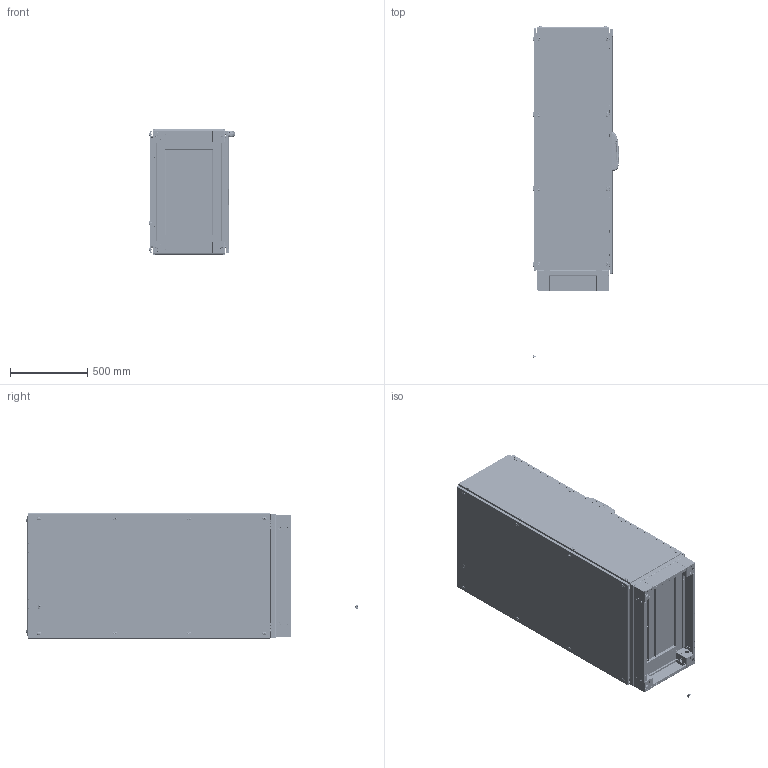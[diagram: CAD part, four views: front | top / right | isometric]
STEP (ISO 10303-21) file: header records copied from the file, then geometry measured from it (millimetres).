
FILE_DESCRIPTION (( 'STEP AP203' ), '1' );
FILE_NAME ('708.165 800x1600x500.STEP', '2020-04-06T09:49:39', ( '' ), ( '' ), 'SwSTEP 2.0', 'SolidWorks 2019', '' );
FILE_SCHEMA (( 'CONFIG_CONTROL_DESIGN' ));
Length unit declared in the file: millimetre
Products named in the file (126): 03taban derinlik percinli_PP 12.0024 - 500; BAZA KÖÞES_SOL; on Kapi 10-2017 2 mm dkp_PP 17.01087 800x1600; kapali dikey profilkenetli_ita oluklu10-aaaaaaaaaaaa-1_500; TEOS Kilit Üst Çubuk_1600--MP 16.0129; BAZA SISTEMIV2-6 baza kapaðý201550x40_TEKPAN LOGOLU; ENINE DELIKLI PROFIL_800; M6 HAVÞA PLASTÝK CÝVATA; TEOS Kilit Üst Çubuk Montaj_1600H; BAZA SISTEMIV2-6 baza kapaðý201550x40; 03-TABAN SACI U1 04-2012_PP 12.0041 -800-75; MP 18.7631 32002136; M8 KAFES SOMUN_m8; 03-KOSE PUNT; Teos-Neo MP Sol Braket Montaj_Standart Pozisyon; MP 18.7631 Kayar Parça; 03-KOSE PUNT_PP 12.0027; pan cross head_am1_B18.6.7M - M5 x 0.8 x 10 Type I Cross Recessed PHMS --10N; TEOS Yeni Kapak Montaj version 2_1600; MP 18.7631 Arka Kapak; PB 14.0004 M6 HAVÞA PLASTÝK CÝVATA; kose rondela kabartmaSIZ 10; socket head cap screw_am_B18.3.1M - 8 x 1.25 x 35 Hex SHCS -- 35NHX; Teos-Neo MP Sað Braket Montaj_Standart Pozisyon; MP 18.7631 Kol-Cark; Teos-Neo MP Durdurucu; kafes somun kafes; yan Kapak 09-2014 800 der ust tek hv r3_PP 12.0061 - 1600X500; yan arka kapak baglantý saci; TEOS Kilit Alt Çubuk Montaj_1600H; MP 14.0006 PVC SIZDIRMAZLIK CONTASI; TEOS SIDE PANEL_706.165 1600X500; kapali dikey profilkenetli_ita oluklu10-aaaaaaaaaaaa-1_800; V2 BAZA KOSESI2015_100; MP 18.7631 204 handle REV04 tekpan logo; 252016-2; Teos-Neo MP Durdurucu Destek; 03-2012 sac kilit dil 10-2010 ORTA; MP 18.7631 Gövde-Plastik; pan head cross recess screw_iso_ISO 7045 - M5 x 10 - Z --- 10C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
Assembly tree (390 placements, depth 7):
  708.165 800x1600x500
    TEOS iskelet_800x1600x500
      kapali dikey profilkenetli_ita oluklu10-aaaaaaaaaaaa-1_1600  x4
      kapali dikey profilkenetli_ita oluklu10-aaaaaaaaaaaa-1_500  x4
      kapali dikey profilkenetli_ita oluklu10-aaaaaaaaaaaa-1_800  x4
      L KOSE DESTEKorj1  x8
      kose rondela kabartmaSIZ 10  x15
      kose rondela kabartmaSIZ 12
      MP 11.0140 TEOS ALUMINYUM KOSE APPROVED 16.08.2010  x8
      M5 DÝKEY PROFÝL RONDELA  x16
      percinli taban-vidalý kapak-kose pls yok_701.850-80X50 ALT
        03-taban genislik percinli 04 - 2012 100-120_PP 12.0020 - 800  x2
        03taban derinlik percinli_PP 12.0024 - 500  x2
        03-KOSE PUNT_PP 12.0027
        03-KOSE PUNT
        Mirror03-KOSE PUNT  x2
        TEOS V2 BAZA S嵞TEM廆800X500
          BAZA KÖÞES_SAG
            V2 BAZA KOSESI2015_100
            BAZA SISTEMIV2-6 baza kapaðý201550x40_TEKPAN LOGOLU
            M6 KAFES SOMU2015
              kafes somun kafes
              somu
            M6 KAFES SOMU2015
              kafes somun kafes
              somu
          V2 -2011 DT BAZA KAPAGI ON_PP 12.0046 - 800  x2
          BAZA KÖÞES_SOL
            V2 BAZA KOSESI2015_100
            BAZA SISTEMIV2-6 baza kapaðý201550x40
            M6 KAFES SOMU2015
              kafes somun kafes
              somu
            M6 KAFES SOMU2015
              kafes somun kafes
              somu
          BAZA KÖÞES_SAG
            V2 BAZA KOSESI2015_100
            BAZA SISTEMIV2-6 baza kapaðý201550x40_TEKPAN LOGOLU
            M6 KAFES SOMU2015
              kafes somun kafes
              somu
            M6 KAFES SOMU2015
              kafes somun kafes
              somu
          BAZA KÖÞES_SOL
            V2 BAZA KOSESI2015_100
            BAZA SISTEMIV2-6 baza kapaðý201550x40
            M6 KAFES SOMU2015
              kafes somun kafes
              somu
            M6 KAFES SOMU2015
              kafes somun kafes
              somu
          V3 -2011 DT BAZA KAPAGI yan_PP 12.0050 - 500  x2
          flat head screw_am_B18.6.7M - M6 x 1.0 x 20 Type I Cross Recessed FHMS --20N  x8
        03-TABAN SACI SURGU_PP 12.0031 - 800
        03-TABAN SACI U1 04-2012_PP 12.0041 -800-75
        03-TABAN SACI U1 04-2012_PP 12.0036 -800-200
        mp aLT DAYAMA_PP 12.0092 - 500  x2
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Bounding box: 558.07 x 2150.81 x 818.87 mm (x, y, z)
Volume: 18935963 mm3; surface area: 19725911.2 mm2
Topology: 335 solids, 375 shells, 49734 faces, 134882 edges, 85596 vertices
Faces by surface type: plane 31665, cylinder 13122, bspline 2211, torus 1155, cone 972, sphere 609
Entity records: 692631 total; most frequent: CARTESIAN_POINT 292730, ORIENTED_EDGE 81330, DIRECTION 74696, EDGE_CURVE 40665, VECTOR 27162, LINE 27162, VERTEX_POINT 26048, AXIS2_PLACEMENT_3D 23767
